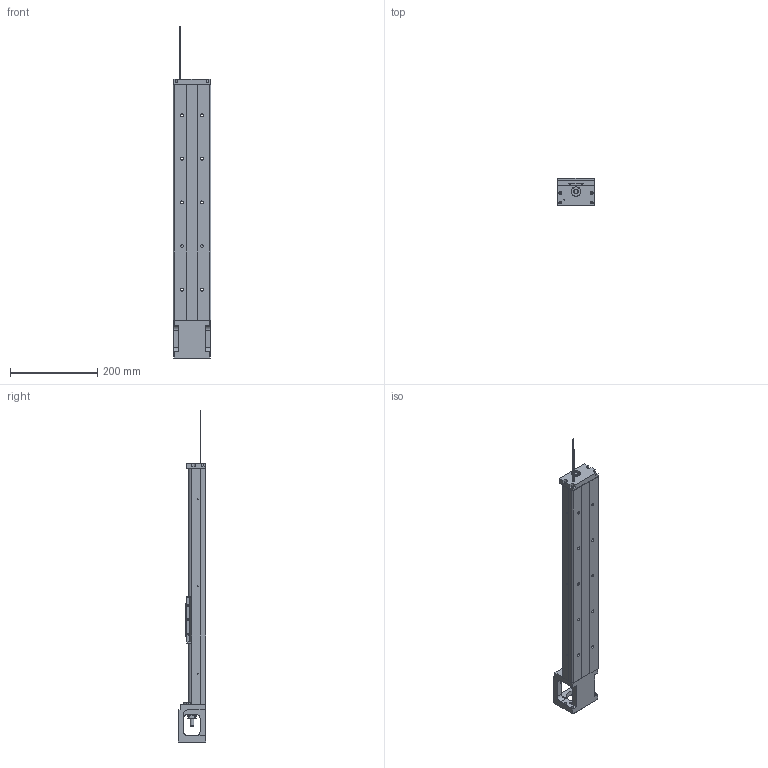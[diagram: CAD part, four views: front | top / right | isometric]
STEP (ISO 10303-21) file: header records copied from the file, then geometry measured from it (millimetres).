
FILE_DESCRIPTION(/* description */ (''),/* implementation_level */ '2;1');
FILE_NAME(/* name */ 'KP46N-540C02-1.stp',/* time_stamp */ '2020-07-02T11:59:19+08:00',/* author */ (''),/* organization */ (''),/* preprocessor_version */ 'ST-DEVELOPER v14',/* originating_system */ 'SIEMENS PLM Software NX 8.0',/* authorisation */ '');
FILE_SCHEMA (('AUTOMOTIVE_DESIGN { 1 0 10303 214 3 1 1 1 }'));
Length unit declared in the file: millimetre
Products named in the file (1): model2
Bounding box: 86 x 64 x 761.89 mm (x, y, z)
Volume: 1344642.5 mm3; surface area: 284692.5 mm2
Topology: 5 solids, 17 shells, 627 faces, 1642 edges, 1075 vertices
Faces by surface type: plane 287, cylinder 223, cone 62, bspline 47, torus 8
Full cylindrical faces by diameter (mm): 2.11 x4, 2.15 x6, 2.42 x8, 3 x6, 3.2 x4, 3.3 x6, 3.4 x8, 4.2 x4, 4.5 x8, 5 x10, 6 x8, 6.35 x2, 6.6 x10, 8 x1, 9.6 x1, 10 x3, 11 x10, 12 x1, 14.95 x2, 15 x1, 16 x2, 22 x3, 27.5 x1, 44 x1, 50 x1
Entity records: 31471 total; most frequent: CARTESIAN_POINT 12982, ORIENTED_EDGE 2816, DIRECTION 2754, EDGE_CURVE 1408, AXIS2_PLACEMENT_3D 1011, VERTEX_POINT 1010, EDGE_LOOP 876, LINE 732
